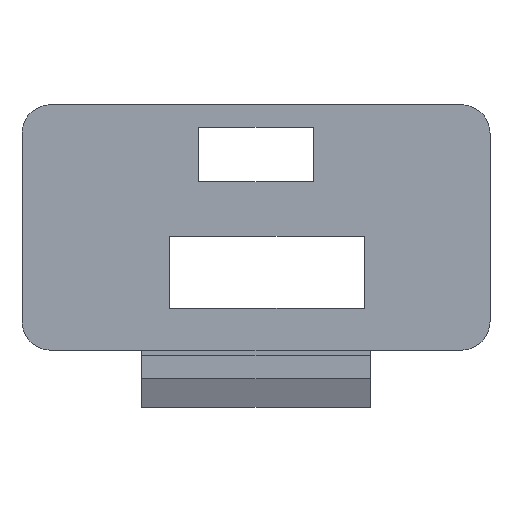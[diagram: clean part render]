
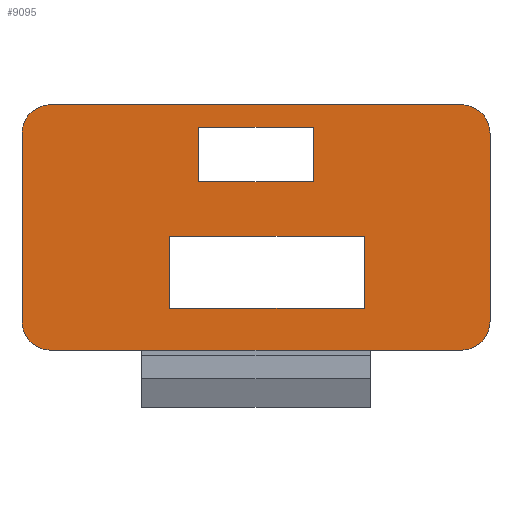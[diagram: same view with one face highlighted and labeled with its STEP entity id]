
A CAD part, front view. The second image highlights one B-rep face of the part: STEP entity #9095.
In plain terms, the highlighted planar face has unit normal (0, -1, 0).
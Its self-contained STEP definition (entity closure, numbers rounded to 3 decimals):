
#49=CIRCLE('',#9445,5.);
#50=CIRCLE('',#9448,5.);
#51=CIRCLE('',#9451,5.);
#52=CIRCLE('',#9452,5.);
#645=FACE_BOUND('',#1645,.T.);
#646=FACE_BOUND('',#1646,.T.);
#1117=FACE_OUTER_BOUND('',#1644,.T.);
#1644=EDGE_LOOP('',(#8241,#8242,#8243,#8244,#8245,#8246,#8247,#8248));
#1645=EDGE_LOOP('',(#8249,#8250,#8251,#8252));
#1646=EDGE_LOOP('',(#8253,#8254,#8255,#8256));
#1889=LINE('',#12628,#2812);
#2488=LINE('',#16522,#3411);
#2556=LINE('',#16721,#3479);
#2557=LINE('',#16729,#3480);
#2558=LINE('',#16733,#3481);
#2559=LINE('',#16735,#3482);
#2560=LINE('',#16737,#3483);
#2561=LINE('',#16738,#3484);
#2562=LINE('',#16741,#3485);
#2563=LINE('',#16743,#3486);
#2564=LINE('',#16745,#3487);
#2565=LINE('',#16746,#3488);
#2812=VECTOR('',#9821,10.);
#3411=VECTOR('',#10814,10.);
#3479=VECTOR('',#11000,10.);
#3480=VECTOR('',#11011,10.);
#3481=VECTOR('',#11014,10.);
#3482=VECTOR('',#11015,10.);
#3483=VECTOR('',#11016,10.);
#3484=VECTOR('',#11017,10.);
#3485=VECTOR('',#11018,10.);
#3486=VECTOR('',#11019,10.);
#3487=VECTOR('',#11020,10.);
#3488=VECTOR('',#11021,10.);
#3731=VERTEX_POINT('',#12625);
#3732=VERTEX_POINT('',#12627);
#4309=VERTEX_POINT('',#16519);
#4310=VERTEX_POINT('',#16521);
#4363=VERTEX_POINT('',#16715);
#4364=VERTEX_POINT('',#16719);
#4365=VERTEX_POINT('',#16726);
#4366=VERTEX_POINT('',#16728);
#4367=VERTEX_POINT('',#16731);
#4368=VERTEX_POINT('',#16732);
#4369=VERTEX_POINT('',#16734);
#4370=VERTEX_POINT('',#16736);
#4371=VERTEX_POINT('',#16739);
#4372=VERTEX_POINT('',#16740);
#4373=VERTEX_POINT('',#16742);
#4374=VERTEX_POINT('',#16744);
#4711=EDGE_CURVE('',#3732,#3731,#1889,.T.);
#5574=EDGE_CURVE('',#4310,#4309,#2488,.T.);
#5663=EDGE_CURVE('',#4363,#4309,#49,.T.);
#5665=EDGE_CURVE('',#4363,#4364,#2556,.T.);
#5666=EDGE_CURVE('',#3732,#4364,#50,.T.);
#5667=EDGE_CURVE('',#4365,#3731,#51,.T.);
#5668=EDGE_CURVE('',#4365,#4366,#2557,.T.);
#5669=EDGE_CURVE('',#4310,#4366,#52,.T.);
#5670=EDGE_CURVE('',#4367,#4368,#2558,.T.);
#5671=EDGE_CURVE('',#4368,#4369,#2559,.T.);
#5672=EDGE_CURVE('',#4369,#4370,#2560,.T.);
#5673=EDGE_CURVE('',#4370,#4367,#2561,.T.);
#5674=EDGE_CURVE('',#4371,#4372,#2562,.T.);
#5675=EDGE_CURVE('',#4372,#4373,#2563,.T.);
#5676=EDGE_CURVE('',#4373,#4374,#2564,.T.);
#5677=EDGE_CURVE('',#4374,#4371,#2565,.T.);
#8241=ORIENTED_EDGE('',*,*,#5663,.F.);
#8242=ORIENTED_EDGE('',*,*,#5665,.T.);
#8243=ORIENTED_EDGE('',*,*,#5666,.F.);
#8244=ORIENTED_EDGE('',*,*,#4711,.T.);
#8245=ORIENTED_EDGE('',*,*,#5667,.F.);
#8246=ORIENTED_EDGE('',*,*,#5668,.T.);
#8247=ORIENTED_EDGE('',*,*,#5669,.F.);
#8248=ORIENTED_EDGE('',*,*,#5574,.T.);
#8249=ORIENTED_EDGE('',*,*,#5670,.T.);
#8250=ORIENTED_EDGE('',*,*,#5671,.T.);
#8251=ORIENTED_EDGE('',*,*,#5672,.T.);
#8252=ORIENTED_EDGE('',*,*,#5673,.T.);
#8253=ORIENTED_EDGE('',*,*,#5674,.T.);
#8254=ORIENTED_EDGE('',*,*,#5675,.T.);
#8255=ORIENTED_EDGE('',*,*,#5676,.T.);
#8256=ORIENTED_EDGE('',*,*,#5677,.T.);
#8610=PLANE('',#9450);
#9095=ADVANCED_FACE('',(#1117,#645,#646),#8610,.F.);
#9445=AXIS2_PLACEMENT_3D('',#16717,#10995,#10996);
#9448=AXIS2_PLACEMENT_3D('',#16723,#11003,#11004);
#9450=AXIS2_PLACEMENT_3D('',#16725,#11007,#11008);
#9451=AXIS2_PLACEMENT_3D('',#16727,#11009,#11010);
#9452=AXIS2_PLACEMENT_3D('',#16730,#11012,#11013);
#9821=DIRECTION('',(1.,0.,0.));
#10814=DIRECTION('',(-1.,0.,0.));
#10995=DIRECTION('center_axis',(0.,1.,0.));
#10996=DIRECTION('ref_axis',(-0.707,0.,0.707));
#11000=DIRECTION('',(0.,0.,-1.));
#11003=DIRECTION('center_axis',(0.,1.,0.));
#11004=DIRECTION('ref_axis',(-0.707,0.,-0.707));
#11007=DIRECTION('center_axis',(0.,1.,0.));
#11008=DIRECTION('ref_axis',(1.,0.,0.));
#11009=DIRECTION('center_axis',(0.,1.,0.));
#11010=DIRECTION('ref_axis',(0.707,0.,-0.707));
#11011=DIRECTION('',(0.,0.,1.));
#11012=DIRECTION('center_axis',(0.,1.,0.));
#11013=DIRECTION('ref_axis',(0.707,0.,0.707));
#11014=DIRECTION('',(0.,0.,-1.));
#11015=DIRECTION('',(-1.,0.,0.));
#11016=DIRECTION('',(0.,0.,1.));
#11017=DIRECTION('',(1.,0.,0.));
#11018=DIRECTION('',(0.,0.,1.));
#11019=DIRECTION('',(1.,0.,0.));
#11020=DIRECTION('',(0.,0.,-1.));
#11021=DIRECTION('',(-1.,0.,0.));
#12625=CARTESIAN_POINT('',(77.,0.,0.));
#12627=CARTESIAN_POINT('',(5.,0.,0.));
#12628=CARTESIAN_POINT('',(0.,0.,0.));
#16519=CARTESIAN_POINT('',(5.,0.,43.));
#16521=CARTESIAN_POINT('',(77.,0.,43.));
#16522=CARTESIAN_POINT('',(82.,0.,43.));
#16715=CARTESIAN_POINT('',(0.,0.,38.));
#16717=CARTESIAN_POINT('Origin',(5.,0.,38.));
#16719=CARTESIAN_POINT('',(0.,0.,5.));
#16721=CARTESIAN_POINT('',(0.,0.,43.));
#16723=CARTESIAN_POINT('Origin',(5.,0.,5.));
#16725=CARTESIAN_POINT('Origin',(41.,0.,21.5));
#16726=CARTESIAN_POINT('',(82.,0.,5.));
#16727=CARTESIAN_POINT('Origin',(77.,0.,5.));
#16728=CARTESIAN_POINT('',(82.,0.,38.));
#16729=CARTESIAN_POINT('',(82.,0.,0.));
#16730=CARTESIAN_POINT('Origin',(77.,0.,38.));
#16731=CARTESIAN_POINT('',(60.,0.,20.));
#16732=CARTESIAN_POINT('',(60.,0.,7.382));
#16733=CARTESIAN_POINT('',(60.,0.,14.441));
#16734=CARTESIAN_POINT('',(25.838,0.,7.382));
#16735=CARTESIAN_POINT('',(33.419,0.,7.382));
#16736=CARTESIAN_POINT('',(25.838,0.,20.));
#16737=CARTESIAN_POINT('',(25.838,0.,20.75));
#16738=CARTESIAN_POINT('',(50.5,0.,20.));
#16739=CARTESIAN_POINT('',(31.,0.,29.53));
#16740=CARTESIAN_POINT('',(31.,0.,39.03));
#16741=CARTESIAN_POINT('',(31.,0.,30.265));
#16742=CARTESIAN_POINT('',(51.,0.,39.03));
#16743=CARTESIAN_POINT('',(46.,0.,39.03));
#16744=CARTESIAN_POINT('',(51.,0.,29.53));
#16745=CARTESIAN_POINT('',(51.,0.,25.515));
#16746=CARTESIAN_POINT('',(36.,0.,29.53));
